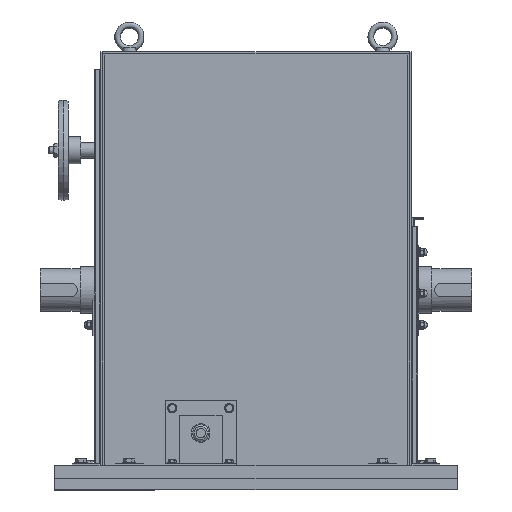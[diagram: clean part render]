
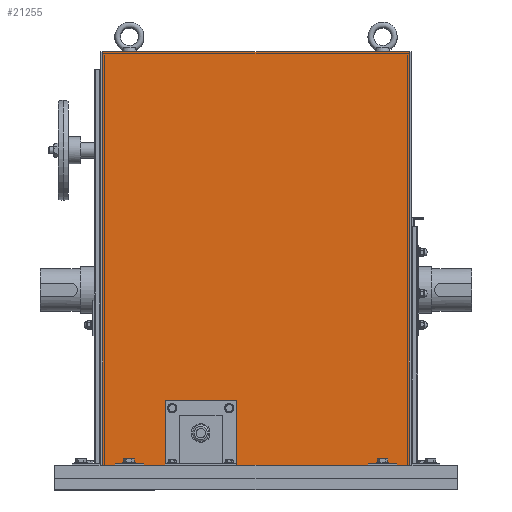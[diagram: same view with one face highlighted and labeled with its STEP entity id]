
A CAD part, top view. The second image highlights one B-rep face of the part: STEP entity #21255.
In plain terms, the highlighted planar face has unit normal (0, 0, 1).
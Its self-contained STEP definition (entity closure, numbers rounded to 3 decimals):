
#345 = EDGE_CURVE ( 'NONE', #22594, #16528, #15243, .T. ) ;
#346 = VERTEX_POINT ( 'NONE', #27212 ) ;
#639 = CARTESIAN_POINT ( 'NONE',  ( 87.3, -246., 260. ) ) ;
#805 = VECTOR ( 'NONE', #27471, 1000. ) ;
#817 = LINE ( 'NONE', #1102, #14939 ) ;
#1102 = CARTESIAN_POINT ( 'NONE',  ( 105., -243.7, 260. ) ) ;
#1153 = EDGE_CURVE ( 'NONE', #22594, #3496, #22638, .T. ) ;
#1178 = VERTEX_POINT ( 'NONE', #13757 ) ;
#1330 = LINE ( 'NONE', #12599, #16639 ) ;
#1512 = EDGE_CURVE ( 'NONE', #16528, #346, #6454, .T. ) ;
#1623 = EDGE_CURVE ( 'NONE', #23604, #16736, #13576, .T. ) ;
#1737 = EDGE_CURVE ( 'NONE', #1178, #7147, #817, .T. ) ;
#2319 = CARTESIAN_POINT ( 'NONE',  ( 175., -156., 260. ) ) ;
#2683 = CARTESIAN_POINT ( 'NONE',  ( 460., -246., 260. ) ) ;
#3204 = LINE ( 'NONE', #12249, #26038 ) ;
#3283 = DIRECTION ( 'NONE',  ( 0., -1., 0. ) ) ;
#3496 = VERTEX_POINT ( 'NONE', #2683 ) ;
#3674 = EDGE_CURVE ( 'NONE', #4764, #24137, #4539, .T. ) ;
#3719 = VECTOR ( 'NONE', #9884, 1000. ) ;
#3813 = CARTESIAN_POINT ( 'NONE',  ( 517.7, -246., 260. ) ) ;
#3948 = CARTESIAN_POINT ( 'NONE',  ( 87.3, -246., 260. ) ) ;
#3961 = CARTESIAN_POINT ( 'NONE',  ( 460., -243.7, 260. ) ) ;
#4236 = CARTESIAN_POINT ( 'NONE',  ( 500., -243.7, 260. ) ) ;
#4291 = CARTESIAN_POINT ( 'NONE',  ( 145., -243.7, 260. ) ) ;
#4299 = EDGE_CURVE ( 'NONE', #5269, #23604, #4940, .T. ) ;
#4539 = LINE ( 'NONE', #3948, #24903 ) ;
#4685 = CARTESIAN_POINT ( 'NONE',  ( 175., -156., 260. ) ) ;
#4764 = VERTEX_POINT ( 'NONE', #23993 ) ;
#4940 = LINE ( 'NONE', #25234, #11738 ) ;
#5269 = VERTEX_POINT ( 'NONE', #6448 ) ;
#5343 = CARTESIAN_POINT ( 'NONE',  ( 517.7, 334., 260. ) ) ;
#5494 = CARTESIAN_POINT ( 'NONE',  ( 175., -246., 260. ) ) ;
#5578 = VERTEX_POINT ( 'NONE', #5343 ) ;
#5696 = EDGE_CURVE ( 'NONE', #16736, #24137, #16755, .T. ) ;
#6387 = DIRECTION ( 'NONE',  ( -1., 0., 0. ) ) ;
#6448 = CARTESIAN_POINT ( 'NONE',  ( 275., -246., 260. ) ) ;
#6454 = LINE ( 'NONE', #4236, #16339 ) ;
#6954 = VECTOR ( 'NONE', #23014, 1000. ) ;
#7091 = CARTESIAN_POINT ( 'NONE',  ( 460., -243.7, 260. ) ) ;
#7147 = VERTEX_POINT ( 'NONE', #24413 ) ;
#7150 = ORIENTED_EDGE ( 'NONE', *, *, #26462, .T. ) ;
#7719 = LINE ( 'NONE', #13563, #805 ) ;
#7918 = DIRECTION ( 'NONE',  ( 0., -1., 0. ) ) ;
#8129 = DIRECTION ( 'NONE',  ( 0., -1., 0. ) ) ;
#8334 = VERTEX_POINT ( 'NONE', #11603 ) ;
#8474 = CARTESIAN_POINT ( 'NONE',  ( 87.3, -246., 260. ) ) ;
#8609 = LINE ( 'NONE', #28210, #3719 ) ;
#8730 = EDGE_CURVE ( 'NONE', #26926, #4764, #1330, .T. ) ;
#9146 = DIRECTION ( 'NONE',  ( 1., 0., 0. ) ) ;
#9693 = DIRECTION ( 'NONE',  ( 1., 0., 0. ) ) ;
#9814 = DIRECTION ( 'NONE',  ( 1., 0., 0. ) ) ;
#9884 = DIRECTION ( 'NONE',  ( 1., 0., 0. ) ) ;
#10072 = ORIENTED_EDGE ( 'NONE', *, *, #19286, .T. ) ;
#10151 = ORIENTED_EDGE ( 'NONE', *, *, #345, .T. ) ;
#10170 = DIRECTION ( 'NONE',  ( 0., 1., 0. ) ) ;
#11443 = CARTESIAN_POINT ( 'NONE',  ( 500., -243.7, 260. ) ) ;
#11603 = CARTESIAN_POINT ( 'NONE',  ( 87.3, -246., 260. ) ) ;
#11738 = VECTOR ( 'NONE', #18432, 1000. ) ;
#12249 = CARTESIAN_POINT ( 'NONE',  ( 87.3, -246., 260. ) ) ;
#12364 = VERTEX_POINT ( 'NONE', #13389 ) ;
#12387 = ORIENTED_EDGE ( 'NONE', *, *, #24588, .T. ) ;
#12526 = EDGE_LOOP ( 'NONE', ( #20508, #20830, #7150, #28616, #10151, #24455, #25435, #12387, #18406, #26559, #10072, #14223, #20772, #19466, #29094, #25684 ) ) ;
#12599 = CARTESIAN_POINT ( 'NONE',  ( 145., -243.7, 260. ) ) ;
#12722 = LINE ( 'NONE', #24813, #15086 ) ;
#13389 = CARTESIAN_POINT ( 'NONE',  ( 87.3, 334., 260. ) ) ;
#13563 = CARTESIAN_POINT ( 'NONE',  ( 145., -243.7, 260. ) ) ;
#13576 = LINE ( 'NONE', #2319, #23860 ) ;
#13609 = VERTEX_POINT ( 'NONE', #3813 ) ;
#13757 = CARTESIAN_POINT ( 'NONE',  ( 105., -243.7, 260. ) ) ;
#13975 = EDGE_CURVE ( 'NONE', #8334, #12364, #3204, .T. ) ;
#14014 = CARTESIAN_POINT ( 'NONE',  ( 517.7, -246., 260. ) ) ;
#14223 = ORIENTED_EDGE ( 'NONE', *, *, #1737, .F. ) ;
#14939 = VECTOR ( 'NONE', #7918, 1000. ) ;
#15086 = VECTOR ( 'NONE', #28960, 1000. ) ;
#15243 = LINE ( 'NONE', #3961, #28565 ) ;
#16339 = VECTOR ( 'NONE', #17281, 1000. ) ;
#16509 = VECTOR ( 'NONE', #9814, 1000. ) ;
#16528 = VERTEX_POINT ( 'NONE', #11443 ) ;
#16639 = VECTOR ( 'NONE', #8129, 1000. ) ;
#16736 = VERTEX_POINT ( 'NONE', #4685 ) ;
#16755 = LINE ( 'NONE', #5494, #28722 ) ;
#17281 = DIRECTION ( 'NONE',  ( 0., -1., 0. ) ) ;
#17508 = FACE_OUTER_BOUND ( 'NONE', #12526, .T. ) ;
#18042 = CARTESIAN_POINT ( 'NONE',  ( 175., -246., 260. ) ) ;
#18406 = ORIENTED_EDGE ( 'NONE', *, *, #19933, .F. ) ;
#18432 = DIRECTION ( 'NONE',  ( 0., 1., 0. ) ) ;
#18482 = CARTESIAN_POINT ( 'NONE',  ( 460., -243.7, 260. ) ) ;
#18760 = VECTOR ( 'NONE', #9693, 1000. ) ;
#19286 = EDGE_CURVE ( 'NONE', #8334, #7147, #12722, .T. ) ;
#19466 = ORIENTED_EDGE ( 'NONE', *, *, #8730, .T. ) ;
#19533 = EDGE_CURVE ( 'NONE', #346, #13609, #8609, .T. ) ;
#19933 = EDGE_CURVE ( 'NONE', #12364, #5578, #20893, .T. ) ;
#20508 = ORIENTED_EDGE ( 'NONE', *, *, #1623, .F. ) ;
#20772 = ORIENTED_EDGE ( 'NONE', *, *, #24567, .T. ) ;
#20830 = ORIENTED_EDGE ( 'NONE', *, *, #4299, .F. ) ;
#20893 = LINE ( 'NONE', #25778, #16509 ) ;
#21255 = ADVANCED_FACE ( 'NONE', ( #17508 ), #28757, .F. ) ;
#21994 = AXIS2_PLACEMENT_3D ( 'NONE', #8474, #26684, #6387 ) ;
#22594 = VERTEX_POINT ( 'NONE', #7091 ) ;
#22638 = LINE ( 'NONE', #18482, #28120 ) ;
#22778 = DIRECTION ( 'NONE',  ( 0., -1., 0. ) ) ;
#23014 = DIRECTION ( 'NONE',  ( 0., 1., 0. ) ) ;
#23604 = VERTEX_POINT ( 'NONE', #28448 ) ;
#23860 = VECTOR ( 'NONE', #27188, 1000. ) ;
#23993 = CARTESIAN_POINT ( 'NONE',  ( 145., -246., 260. ) ) ;
#24137 = VERTEX_POINT ( 'NONE', #18042 ) ;
#24413 = CARTESIAN_POINT ( 'NONE',  ( 105., -246., 260. ) ) ;
#24455 = ORIENTED_EDGE ( 'NONE', *, *, #1512, .T. ) ;
#24567 = EDGE_CURVE ( 'NONE', #1178, #26926, #7719, .T. ) ;
#24588 = EDGE_CURVE ( 'NONE', #13609, #5578, #25793, .T. ) ;
#24674 = DIRECTION ( 'NONE',  ( 1., 0., 0. ) ) ;
#24813 = CARTESIAN_POINT ( 'NONE',  ( 87.3, -246., 260. ) ) ;
#24903 = VECTOR ( 'NONE', #24674, 1000. ) ;
#25234 = CARTESIAN_POINT ( 'NONE',  ( 275., -246., 260. ) ) ;
#25368 = LINE ( 'NONE', #639, #18760 ) ;
#25435 = ORIENTED_EDGE ( 'NONE', *, *, #19533, .T. ) ;
#25684 = ORIENTED_EDGE ( 'NONE', *, *, #5696, .F. ) ;
#25778 = CARTESIAN_POINT ( 'NONE',  ( 87.3, 334., 260. ) ) ;
#25793 = LINE ( 'NONE', #14014, #6954 ) ;
#26038 = VECTOR ( 'NONE', #10170, 1000. ) ;
#26462 = EDGE_CURVE ( 'NONE', #5269, #3496, #25368, .T. ) ;
#26559 = ORIENTED_EDGE ( 'NONE', *, *, #13975, .F. ) ;
#26684 = DIRECTION ( 'NONE',  ( 0., 0., -1. ) ) ;
#26926 = VERTEX_POINT ( 'NONE', #4291 ) ;
#27188 = DIRECTION ( 'NONE',  ( -1., 0., 0. ) ) ;
#27212 = CARTESIAN_POINT ( 'NONE',  ( 500., -246., 260. ) ) ;
#27471 = DIRECTION ( 'NONE',  ( 1., 0., 0. ) ) ;
#28120 = VECTOR ( 'NONE', #22778, 1000. ) ;
#28210 = CARTESIAN_POINT ( 'NONE',  ( 87.3, -246., 260. ) ) ;
#28448 = CARTESIAN_POINT ( 'NONE',  ( 275., -156., 260. ) ) ;
#28565 = VECTOR ( 'NONE', #9146, 1000. ) ;
#28616 = ORIENTED_EDGE ( 'NONE', *, *, #1153, .F. ) ;
#28722 = VECTOR ( 'NONE', #3283, 1000. ) ;
#28757 = PLANE ( 'NONE',  #21994 ) ;
#28960 = DIRECTION ( 'NONE',  ( 1., 0., 0. ) ) ;
#29094 = ORIENTED_EDGE ( 'NONE', *, *, #3674, .T. ) ;
